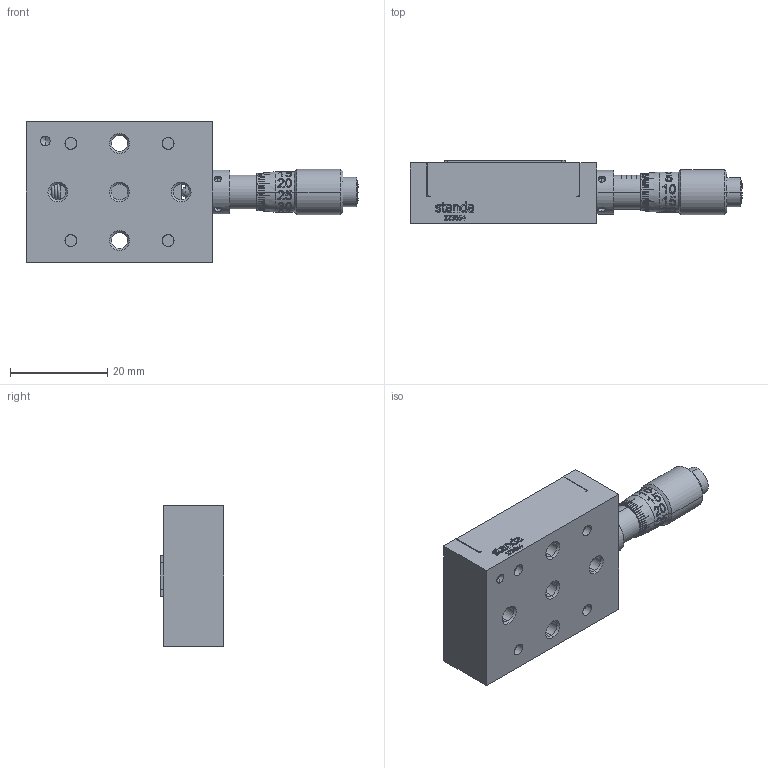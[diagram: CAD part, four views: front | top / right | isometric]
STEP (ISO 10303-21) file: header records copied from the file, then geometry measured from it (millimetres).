
FILE_DESCRIPTION (( 'STEP AP203' ), '1' );
FILE_NAME ('7T67-6-9S35M-5.STEP', '2010-01-29T14:14:25', ( 'Darius' ), ( '' ), 'SwSTEP 2.0', 'SolidWorks 2003240', '' );
FILE_SCHEMA (( 'CONFIG_CONTROL_DESIGN' ));
Products named in the file (1): 7T67-6-9S35M-5
Bounding box: 68.36 x 13.1 x 29 mm (x, y, z)
Volume: 13783.2 mm3; surface area: 9266.2 mm2
Topology: 1 solids, 7 shells, 1120 faces, 2997 edges, 1947 vertices
Faces by surface type: plane 495, bspline 366, cylinder 195, cone 64
Entity records: 113388 total; most frequent: CARTESIAN_POINT 87511, ORIENTED_EDGE 5944, DIRECTION 4306, EDGE_CURVE 2972, VERTEX_POINT 1948, VECTOR 1570, LINE 1570, AXIS2_PLACEMENT_3D 1368
